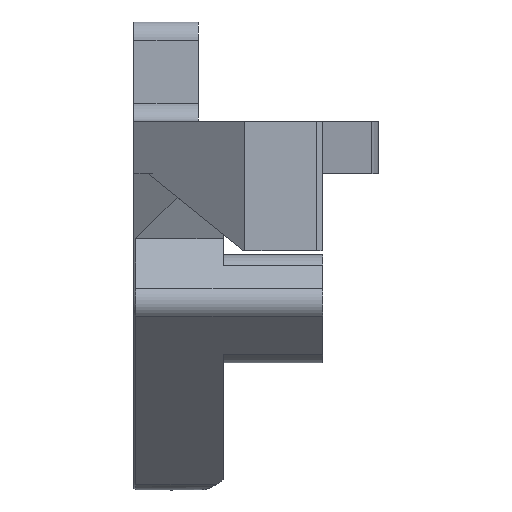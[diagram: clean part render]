
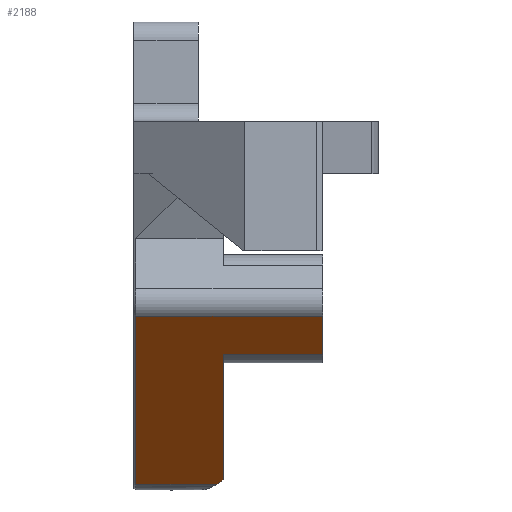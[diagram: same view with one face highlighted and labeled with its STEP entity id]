
A CAD part, left-side view. The second image highlights one B-rep face of the part: STEP entity #2188.
In plain terms, the highlighted planar face has unit normal (-0.707, 0, -0.707).
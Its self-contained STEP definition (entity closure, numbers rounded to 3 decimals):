
#24=ELLIPSE('',#2330,16.263,11.5);
#69=PLANE('',#2340);
#238=FACE_OUTER_BOUND('',#376,.T.);
#376=EDGE_LOOP('',(#1812,#1813,#1814,#1815,#1816,#1817,#1818));
#531=LINE('',#4269,#719);
#554=LINE('',#4356,#742);
#555=LINE('',#4360,#743);
#556=LINE('',#4362,#744);
#557=LINE('',#4364,#745);
#558=LINE('',#4365,#746);
#719=VECTOR('',#2661,10.);
#742=VECTOR('',#2718,2.133);
#743=VECTOR('',#2723,10.);
#744=VECTOR('',#2724,10.);
#745=VECTOR('',#2725,10.);
#746=VECTOR('',#2726,10.);
#1036=VERTEX_POINT('',#4266);
#1037=VERTEX_POINT('',#4268);
#1049=VERTEX_POINT('',#4307);
#1059=VERTEX_POINT('',#4355);
#1060=VERTEX_POINT('',#4359);
#1061=VERTEX_POINT('',#4361);
#1062=VERTEX_POINT('',#4363);
#1295=EDGE_CURVE('',#1037,#1036,#531,.T.);
#1313=EDGE_CURVE('',#1049,#1037,#24,.T.);
#1330=EDGE_CURVE('',#1049,#1059,#554,.T.);
#1332=EDGE_CURVE('',#1060,#1036,#555,.T.);
#1333=EDGE_CURVE('',#1061,#1060,#556,.T.);
#1334=EDGE_CURVE('',#1062,#1061,#557,.T.);
#1335=EDGE_CURVE('',#1059,#1062,#558,.T.);
#1812=ORIENTED_EDGE('',*,*,#1313,.T.);
#1813=ORIENTED_EDGE('',*,*,#1295,.T.);
#1814=ORIENTED_EDGE('',*,*,#1332,.F.);
#1815=ORIENTED_EDGE('',*,*,#1333,.F.);
#1816=ORIENTED_EDGE('',*,*,#1334,.F.);
#1817=ORIENTED_EDGE('',*,*,#1335,.F.);
#1818=ORIENTED_EDGE('',*,*,#1330,.F.);
#2188=ADVANCED_FACE('',(#238),#69,.T.);
#2330=AXIS2_PLACEMENT_3D('',#4308,#2690,#2691);
#2340=AXIS2_PLACEMENT_3D('',#4358,#2721,#2722);
#2661=DIRECTION('',(-0.707,0.,0.707));
#2690=DIRECTION('center_axis',(0.707,0.,0.707));
#2691=DIRECTION('ref_axis',(-0.707,0.,0.707));
#2718=DIRECTION('',(0.,1.,0.));
#2721=DIRECTION('center_axis',(-0.707,0.,
-0.707));
#2722=DIRECTION('ref_axis',(0.707,0.,-0.707));
#2723=DIRECTION('',(0.,1.,0.));
#2724=DIRECTION('',(0.707,0.,-0.707));
#2725=DIRECTION('',(0.,-1.,0.));
#2726=DIRECTION('',(-0.707,0.,0.707));
#4266=CARTESIAN_POINT('',(8.775,42.458,12.237));
#4268=CARTESIAN_POINT('',(22.432,42.458,-1.421));
#4269=CARTESIAN_POINT('',(6.651,42.458,14.36));
#4307=CARTESIAN_POINT('',(22.898,43.185,-1.887));
#4308=CARTESIAN_POINT('Origin',(32.34,36.62,-11.328));
#4355=CARTESIAN_POINT('',(22.898,52.008,-1.887));
#4356=CARTESIAN_POINT('',(22.898,50.261,-1.887));
#4358=CARTESIAN_POINT('Origin',(4.55,51.908,16.462));
#4359=CARTESIAN_POINT('',(8.775,31.62,12.237));
#4360=CARTESIAN_POINT('',(8.775,46.636,12.237));
#4361=CARTESIAN_POINT('',(4.55,31.62,16.462));
#4362=CARTESIAN_POINT('',(10.867,31.62,10.145));
#4363=CARTESIAN_POINT('',(4.55,52.008,16.462));
#4364=CARTESIAN_POINT('',(4.55,40.858,16.462));
#4365=CARTESIAN_POINT('',(10.867,52.008,10.145));
